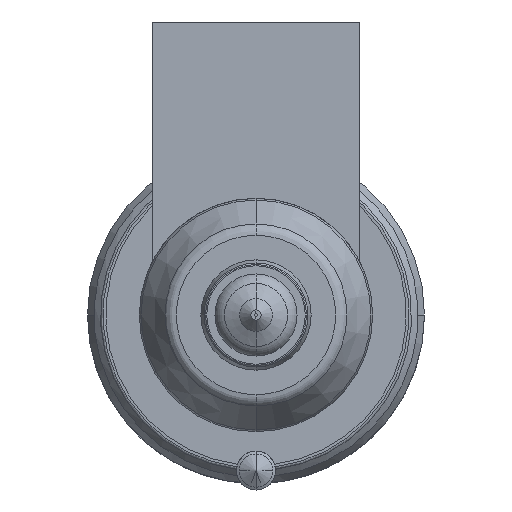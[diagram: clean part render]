
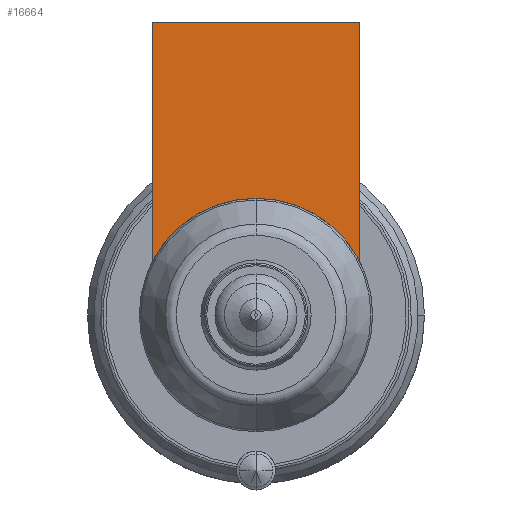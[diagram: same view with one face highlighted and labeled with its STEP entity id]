
A CAD part, front view. The second image highlights one B-rep face of the part: STEP entity #16664.
In plain terms, the highlighted planar face has unit normal (0, -1, 0).
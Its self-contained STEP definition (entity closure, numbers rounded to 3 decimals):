
#15244=DIRECTION('',(0.,0.,-1.));
#15245=VECTOR('',#15244,18.481);
#15246=CARTESIAN_POINT('',(-8.,-54.,22.604));
#15247=LINE('',#15246,#15245);
#15844=CARTESIAN_POINT('',(0.,-54.,0.));
#15845=DIRECTION('',(0.,-1.,0.));
#15846=DIRECTION('',(0.,0.,1.));
#15847=AXIS2_PLACEMENT_3D('',#15844,#15845,#15846);
#15852=DIRECTION('',(1.,0.,0.));
#15853=VECTOR('',#15852,16.);
#15854=CARTESIAN_POINT('',(-8.,-54.,22.604));
#15855=LINE('',#15854,#15853);
#15859=CARTESIAN_POINT('',(0.,-54.,0.));
#15860=DIRECTION('',(0.,-1.,0.));
#15861=DIRECTION('',(0.889,0.,0.458));
#15862=AXIS2_PLACEMENT_3D('',#15859,#15860,#15861);
#15945=DIRECTION('',(0.,0.,-1.));
#15946=VECTOR('',#15945,18.481);
#15947=CARTESIAN_POINT('',(8.,-54.,22.604));
#15948=LINE('',#15947,#15946);
#16050=CARTESIAN_POINT('',(-8.,-54.,22.604));
#16051=VERTEX_POINT('',#16050);
#16056=CARTESIAN_POINT('',(8.,-54.,22.604));
#16057=VERTEX_POINT('',#16056);
#16059=CARTESIAN_POINT('',(-8.,-54.,4.123));
#16061=VERTEX_POINT('',#16059);
#16063=CARTESIAN_POINT('',(8.,-54.,4.123));
#16065=VERTEX_POINT('',#16063);
#16066=CARTESIAN_POINT('',(0.,-54.,9.));
#16067=VERTEX_POINT('',#16066);
#16650=CARTESIAN_POINT('',(-8.,-54.,22.604));
#16651=DIRECTION('',(0.,-1.,0.));
#16652=DIRECTION('',(0.,0.,-1.));
#16653=AXIS2_PLACEMENT_3D('',#16650,#16651,#16652);
#16654=PLANE('',#16653);
#16655=ORIENTED_EDGE('',*,*,#16107,.T.);
#16656=ORIENTED_EDGE('',*,*,#16090,.F.);
#16658=ORIENTED_EDGE('',*,*,#16657,.T.);
#16660=ORIENTED_EDGE('',*,*,#16659,.T.);
#16661=ORIENTED_EDGE('',*,*,#16155,.T.);
#16662=EDGE_LOOP('',(#16655,#16656,#16658,#16660,#16661));
#16663=FACE_OUTER_BOUND('',#16662,.F.);
#16664=ADVANCED_FACE('',(#16663),#16654,.T.);
#15848=CIRCLE('',#15847,9.);
#15863=CIRCLE('',#15862,9.);
#16090=EDGE_CURVE('',#16051,#16061,#15247,.T.);
#16107=EDGE_CURVE('',#16067,#16061,#15848,.T.);
#16155=EDGE_CURVE('',#16065,#16067,#15863,.T.);
#16657=EDGE_CURVE('',#16051,#16057,#15855,.T.);
#16659=EDGE_CURVE('',#16057,#16065,#15948,.T.);
